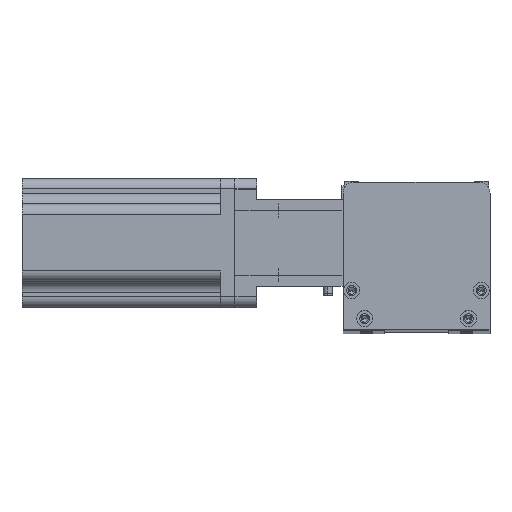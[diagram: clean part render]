
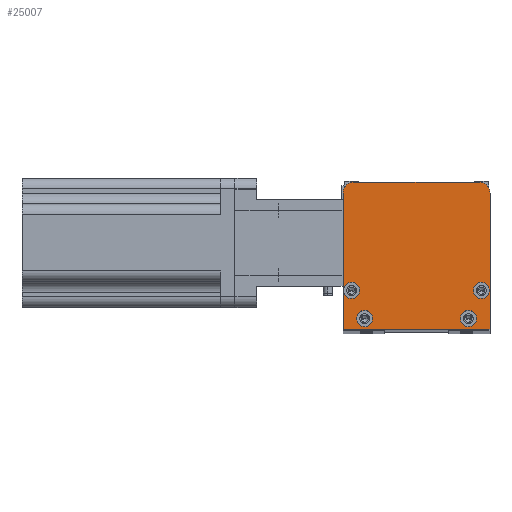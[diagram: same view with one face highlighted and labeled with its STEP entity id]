
A CAD part, top view. The second image highlights one B-rep face of the part: STEP entity #25007.
In plain terms, the highlighted planar face has unit normal (0, 0, 1) as drawn and (0, 0, -1) by its records, which use the part's own axes.
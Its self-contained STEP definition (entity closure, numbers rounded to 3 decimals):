
#166 = CARTESIAN_POINT ( 'NONE',  ( 0., 0., 0. ) ) ;
#405 = CARTESIAN_POINT ( 'NONE',  ( 61.75, 5., 0. ) ) ;
#465 = VERTEX_POINT ( 'NONE', #2261 ) ;
#813 = FACE_BOUND ( 'NONE', #16237, .T. ) ;
#1096 = CARTESIAN_POINT ( 'NONE',  ( 5., 68., 0. ) ) ;
#1565 = CARTESIAN_POINT ( 'NONE',  ( 68., 68., 0. ) ) ;
#1762 = LINE ( 'NONE', #1565, #12802 ) ;
#1982 = EDGE_CURVE ( 'NONE', #10014, #27826, #28311, .T. ) ;
#2135 = CARTESIAN_POINT ( 'NONE',  ( 58., 5., 0. ) ) ;
#2261 = CARTESIAN_POINT ( 'NONE',  ( 7.75, 18., 0. ) ) ;
#2305 = CARTESIAN_POINT ( 'NONE',  ( 58., 5., 0. ) ) ;
#2491 = CARTESIAN_POINT ( 'NONE',  ( 64., 18., 0. ) ) ;
#2529 = EDGE_CURVE ( 'NONE', #18082, #21575, #16008, .T. ) ;
#2622 = CIRCLE ( 'NONE', #27480, 3.75 ) ;
#2665 = DIRECTION ( 'NONE',  ( 0., 0., 1. ) ) ;
#2836 = CARTESIAN_POINT ( 'NONE',  ( 67.75, 18., 0. ) ) ;
#3376 = ORIENTED_EDGE ( 'NONE', *, *, #8722, .F. ) ;
#3490 = CARTESIAN_POINT ( 'NONE',  ( 6.25, 5., 0. ) ) ;
#3582 = CARTESIAN_POINT ( 'NONE',  ( 64., 18., 0. ) ) ;
#3743 = ORIENTED_EDGE ( 'NONE', *, *, #22461, .F. ) ;
#3932 = AXIS2_PLACEMENT_3D ( 'NONE', #2305, #18680, #4666 ) ;
#3968 = DIRECTION ( 'NONE',  ( 0., 0., -1. ) ) ;
#4212 = VERTEX_POINT ( 'NONE', #1096 ) ;
#4496 = DIRECTION ( 'NONE',  ( -1., 0., 0. ) ) ;
#4666 = DIRECTION ( 'NONE',  ( -1., 0., 0. ) ) ;
#4839 = DIRECTION ( 'NONE',  ( -1., 0., 0. ) ) ;
#5267 = CIRCLE ( 'NONE', #28829, 3.75 ) ;
#5576 = AXIS2_PLACEMENT_3D ( 'NONE', #3582, #19933, #5962 ) ;
#5592 = EDGE_CURVE ( 'NONE', #11081, #465, #2622, .T. ) ;
#5962 = DIRECTION ( 'NONE',  ( -1., 0., 0. ) ) ;
#6010 = VERTEX_POINT ( 'NONE', #27247 ) ;
#6910 = CARTESIAN_POINT ( 'NONE',  ( 63., 63., 0. ) ) ;
#7115 = FACE_BOUND ( 'NONE', #14552, .T. ) ;
#7974 = EDGE_LOOP ( 'NONE', ( #12598, #20450 ) ) ;
#8209 = ORIENTED_EDGE ( 'NONE', *, *, #17721, .T. ) ;
#8722 = EDGE_CURVE ( 'NONE', #28328, #4212, #1762, .T. ) ;
#9080 = VECTOR ( 'NONE', #17482, 1000. ) ;
#9278 = DIRECTION ( 'NONE',  ( 1., 0., 0. ) ) ;
#10014 = VERTEX_POINT ( 'NONE', #27449 ) ;
#10490 = VERTEX_POINT ( 'NONE', #27127 ) ;
#10656 = DIRECTION ( 'NONE',  ( 0., 0., -1. ) ) ;
#10858 = AXIS2_PLACEMENT_3D ( 'NONE', #2135, #18519, #4496 ) ;
#10882 = DIRECTION ( 'NONE',  ( 1., 0., 0. ) ) ;
#10895 = CIRCLE ( 'NONE', #16455, 3.75 ) ;
#10924 = EDGE_CURVE ( 'NONE', #10490, #14425, #21696, .T. ) ;
#11081 = VERTEX_POINT ( 'NONE', #16252 ) ;
#11337 = DIRECTION ( 'NONE',  ( 0., 0., -1. ) ) ;
#11720 = ORIENTED_EDGE ( 'NONE', *, *, #17123, .F. ) ;
#12579 = ORIENTED_EDGE ( 'NONE', *, *, #5592, .F. ) ;
#12598 = ORIENTED_EDGE ( 'NONE', *, *, #2529, .F. ) ;
#12802 = VECTOR ( 'NONE', #15620, 1000. ) ;
#13776 = DIRECTION ( 'NONE',  ( 0., 0., -1. ) ) ;
#13874 = CIRCLE ( 'NONE', #26146, 3.75 ) ;
#14032 = CARTESIAN_POINT ( 'NONE',  ( 4., 18., 0. ) ) ;
#14154 = EDGE_LOOP ( 'NONE', ( #28173, #8209, #3376, #23510, #24426, #24453 ) ) ;
#14425 = VERTEX_POINT ( 'NONE', #26884 ) ;
#14446 = CARTESIAN_POINT ( 'NONE',  ( 13.75, 5., 0. ) ) ;
#14552 = EDGE_LOOP ( 'NONE', ( #15616, #11720 ) ) ;
#15167 = EDGE_CURVE ( 'NONE', #6010, #10490, #23907, .T. ) ;
#15231 = EDGE_CURVE ( 'NONE', #21575, #18082, #10895, .T. ) ;
#15404 = AXIS2_PLACEMENT_3D ( 'NONE', #24510, #10656, #26851 ) ;
#15565 = VECTOR ( 'NONE', #10882, 1000. ) ;
#15616 = ORIENTED_EDGE ( 'NONE', *, *, #23528, .F. ) ;
#15620 = DIRECTION ( 'NONE',  ( -1., 0., 0. ) ) ;
#16008 = CIRCLE ( 'NONE', #15404, 3.75 ) ;
#16237 = EDGE_LOOP ( 'NONE', ( #12579, #24582 ) ) ;
#16252 = CARTESIAN_POINT ( 'NONE',  ( 0.25, 18., 0. ) ) ;
#16367 = DIRECTION ( 'NONE',  ( -1., 0., 0. ) ) ;
#16455 = AXIS2_PLACEMENT_3D ( 'NONE', #17990, #3968, #20305 ) ;
#17123 = EDGE_CURVE ( 'NONE', #26741, #24431, #23072, .T. ) ;
#17390 = EDGE_LOOP ( 'NONE', ( #28930, #3743 ) ) ;
#17482 = DIRECTION ( 'NONE',  ( 0., 1., 0. ) ) ;
#17721 = EDGE_CURVE ( 'NONE', #6010, #4212, #27748, .T. ) ;
#17801 = VECTOR ( 'NONE', #29281, 1000. ) ;
#17990 = CARTESIAN_POINT ( 'NONE',  ( 10., 5., 0. ) ) ;
#18082 = VERTEX_POINT ( 'NONE', #3490 ) ;
#18519 = DIRECTION ( 'NONE',  ( 0., 0., -1. ) ) ;
#18680 = DIRECTION ( 'NONE',  ( 0., 0., -1. ) ) ;
#18856 = DIRECTION ( 'NONE',  ( 0., 0., -1. ) ) ;
#19029 = DIRECTION ( 'NONE',  ( 1., 0., 0. ) ) ;
#19509 = FACE_BOUND ( 'NONE', #7974, .T. ) ;
#19933 = DIRECTION ( 'NONE',  ( 0., 0., -1. ) ) ;
#20024 = CARTESIAN_POINT ( 'NONE',  ( 0., 0., 0. ) ) ;
#20233 = FACE_BOUND ( 'NONE', #17390, .T. ) ;
#20305 = DIRECTION ( 'NONE',  ( -1., 0., 0. ) ) ;
#20450 = ORIENTED_EDGE ( 'NONE', *, *, #15231, .F. ) ;
#21575 = VERTEX_POINT ( 'NONE', #14446 ) ;
#21696 = LINE ( 'NONE', #24727, #15565 ) ;
#22116 = AXIS2_PLACEMENT_3D ( 'NONE', #6910, #23146, #9278 ) ;
#22127 = LINE ( 'NONE', #28974, #9080 ) ;
#22461 = EDGE_CURVE ( 'NONE', #27826, #10014, #13874, .T. ) ;
#23072 = CIRCLE ( 'NONE', #3932, 3.75 ) ;
#23146 = DIRECTION ( 'NONE',  ( 0., 0., -1. ) ) ;
#23267 = EDGE_CURVE ( 'NONE', #14425, #24594, #22127, .T. ) ;
#23510 = ORIENTED_EDGE ( 'NONE', *, *, #27131, .T. ) ;
#23528 = EDGE_CURVE ( 'NONE', #24431, #26741, #28613, .T. ) ;
#23907 = LINE ( 'NONE', #20024, #17801 ) ;
#24374 = CARTESIAN_POINT ( 'NONE',  ( 68., 63., 0. ) ) ;
#24426 = ORIENTED_EDGE ( 'NONE', *, *, #23267, .F. ) ;
#24431 = VERTEX_POINT ( 'NONE', #26013 ) ;
#24453 = ORIENTED_EDGE ( 'NONE', *, *, #10924, .F. ) ;
#24510 = CARTESIAN_POINT ( 'NONE',  ( 10., 5., 0. ) ) ;
#24582 = ORIENTED_EDGE ( 'NONE', *, *, #24825, .F. ) ;
#24594 = VERTEX_POINT ( 'NONE', #24374 ) ;
#24727 = CARTESIAN_POINT ( 'NONE',  ( 68., 0., 0. ) ) ;
#24825 = EDGE_CURVE ( 'NONE', #465, #11081, #5267, .T. ) ;
#24895 = FACE_OUTER_BOUND ( 'NONE', #14154, .T. ) ;
#25007 = ADVANCED_FACE ( 'NONE', ( #20233, #813, #19509, #7115, #24895 ), #28195, .F. ) ;
#25162 = AXIS2_PLACEMENT_3D ( 'NONE', #166, #2665, #19029 ) ;
#25179 = CARTESIAN_POINT ( 'NONE',  ( 4., 18., 0. ) ) ;
#26013 = CARTESIAN_POINT ( 'NONE',  ( 54.25, 5., 0. ) ) ;
#26146 = AXIS2_PLACEMENT_3D ( 'NONE', #2491, #18856, #4839 ) ;
#26741 = VERTEX_POINT ( 'NONE', #405 ) ;
#26851 = DIRECTION ( 'NONE',  ( -1., 0., 0. ) ) ;
#26884 = CARTESIAN_POINT ( 'NONE',  ( 68., 0., 0. ) ) ;
#27127 = CARTESIAN_POINT ( 'NONE',  ( 0., 0., 0. ) ) ;
#27131 = EDGE_CURVE ( 'NONE', #28328, #24594, #29171, .T. ) ;
#27247 = CARTESIAN_POINT ( 'NONE',  ( 0., 63., 0. ) ) ;
#27449 = CARTESIAN_POINT ( 'NONE',  ( 60.25, 18., 0. ) ) ;
#27480 = AXIS2_PLACEMENT_3D ( 'NONE', #14032, #30177, #16367 ) ;
#27509 = DIRECTION ( 'NONE',  ( -1., 0., 0. ) ) ;
#27615 = CARTESIAN_POINT ( 'NONE',  ( 5., 63., 0. ) ) ;
#27748 = CIRCLE ( 'NONE', #28753, 5. ) ;
#27826 = VERTEX_POINT ( 'NONE', #2836 ) ;
#28173 = ORIENTED_EDGE ( 'NONE', *, *, #15167, .F. ) ;
#28195 = PLANE ( 'NONE',  #25162 ) ;
#28216 = CARTESIAN_POINT ( 'NONE',  ( 63., 68., 0. ) ) ;
#28311 = CIRCLE ( 'NONE', #5576, 3.75 ) ;
#28328 = VERTEX_POINT ( 'NONE', #28216 ) ;
#28613 = CIRCLE ( 'NONE', #10858, 3.75 ) ;
#28753 = AXIS2_PLACEMENT_3D ( 'NONE', #27615, #13776, #29922 ) ;
#28829 = AXIS2_PLACEMENT_3D ( 'NONE', #25179, #11337, #27509 ) ;
#28930 = ORIENTED_EDGE ( 'NONE', *, *, #1982, .F. ) ;
#28974 = CARTESIAN_POINT ( 'NONE',  ( 68., 0., 0. ) ) ;
#29171 = CIRCLE ( 'NONE', #22116, 5. ) ;
#29281 = DIRECTION ( 'NONE',  ( 0., -1., 0. ) ) ;
#29922 = DIRECTION ( 'NONE',  ( 1., 0., 0. ) ) ;
#30177 = DIRECTION ( 'NONE',  ( 0., 0., -1. ) ) ;
